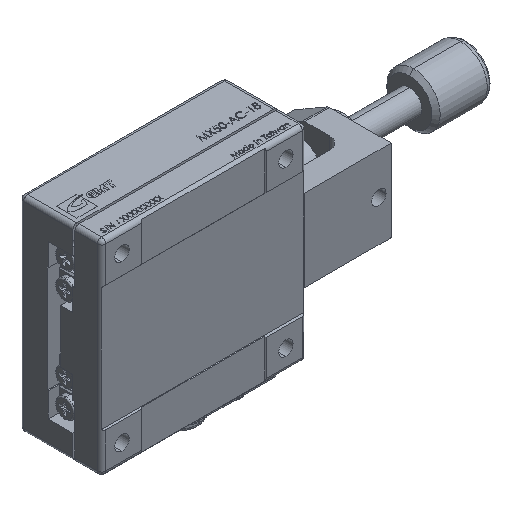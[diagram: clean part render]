
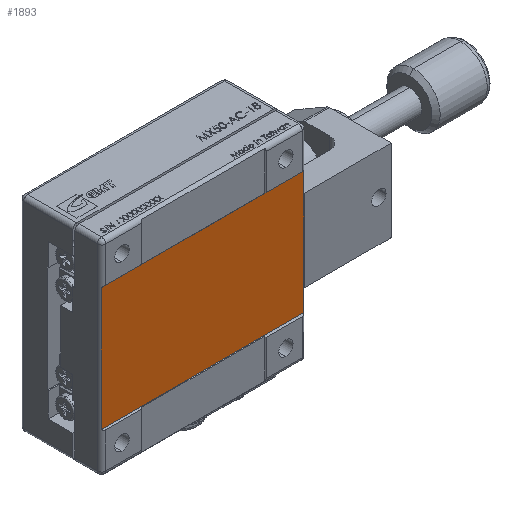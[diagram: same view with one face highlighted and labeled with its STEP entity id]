
A CAD part, isometric view. The second image highlights one B-rep face of the part: STEP entity #1893.
In plain terms, the highlighted planar face has unit normal (0, -1, 0).
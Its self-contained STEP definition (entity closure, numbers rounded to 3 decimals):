
#1893 = ADVANCED_FACE ( 'NONE', ( #48528 ), #20831, .F. ) ;
#5448 = DIRECTION ( 'NONE',  ( -1., 0., 0. ) ) ;
#13576 = CARTESIAN_POINT ( 'NONE',  ( -24.334, -6.992, 15. ) ) ;
#15252 = CARTESIAN_POINT ( 'NONE',  ( -24.334, -6.992, -15. ) ) ;
#15695 = AXIS2_PLACEMENT_3D ( 'NONE', #20341, #19932, #19728 ) ;
#16022 = LINE ( 'NONE', #80363, #68714 ) ;
#17111 = EDGE_CURVE ( 'NONE', #43635, #64116, #88275, .T. ) ;
#18866 = CARTESIAN_POINT ( 'NONE',  ( 25.38, -6.992, -15. ) ) ;
#19728 = DIRECTION ( 'NONE',  ( 0., 0., 1. ) ) ;
#19932 = DIRECTION ( 'NONE',  ( 0., 1., 0. ) ) ;
#20341 = CARTESIAN_POINT ( 'NONE',  ( 25.38, -6.992, 15. ) ) ;
#20831 = PLANE ( 'NONE',  #15695 ) ;
#23571 = VECTOR ( 'NONE', #5448, 1000. ) ;
#27475 = CARTESIAN_POINT ( 'NONE',  ( 25.094, -6.992, -15. ) ) ;
#28390 = EDGE_CURVE ( 'NONE', #64750, #43635, #38523, .T. ) ;
#29837 = VECTOR ( 'NONE', #41486, 1000. ) ;
#30271 = VERTEX_POINT ( 'NONE', #27475 ) ;
#38523 = LINE ( 'NONE', #88904, #29837 ) ;
#41486 = DIRECTION ( 'NONE',  ( -1., 0., 0. ) ) ;
#43635 = VERTEX_POINT ( 'NONE', #13576 ) ;
#48528 = FACE_OUTER_BOUND ( 'NONE', #49818, .T. ) ;
#49818 = EDGE_LOOP ( 'NONE', ( #55329, #68234, #60775, #65060 ) ) ;
#51986 = VECTOR ( 'NONE', #61635, 1000. ) ;
#55329 = ORIENTED_EDGE ( 'NONE', *, *, #71890, .F. ) ;
#60775 = ORIENTED_EDGE ( 'NONE', *, *, #28390, .T. ) ;
#61635 = DIRECTION ( 'NONE',  ( 0., 0., -1. ) ) ;
#64116 = VERTEX_POINT ( 'NONE', #15252 ) ;
#64483 = CARTESIAN_POINT ( 'NONE',  ( -24.334, -6.992, 15. ) ) ;
#64750 = VERTEX_POINT ( 'NONE', #77599 ) ;
#65060 = ORIENTED_EDGE ( 'NONE', *, *, #17111, .T. ) ;
#68234 = ORIENTED_EDGE ( 'NONE', *, *, #89231, .T. ) ;
#68714 = VECTOR ( 'NONE', #87206, 1000. ) ;
#71890 = EDGE_CURVE ( 'NONE', #30271, #64116, #78245, .T. ) ;
#77599 = CARTESIAN_POINT ( 'NONE',  ( 25.094, -6.992, 15. ) ) ;
#78245 = LINE ( 'NONE', #18866, #23571 ) ;
#80363 = CARTESIAN_POINT ( 'NONE',  ( 25.094, -6.992, -15. ) ) ;
#87206 = DIRECTION ( 'NONE',  ( 0., 0., 1. ) ) ;
#88275 = LINE ( 'NONE', #64483, #51986 ) ;
#88904 = CARTESIAN_POINT ( 'NONE',  ( 25.38, -6.992, 15. ) ) ;
#89231 = EDGE_CURVE ( 'NONE', #30271, #64750, #16022, .T. ) ;
